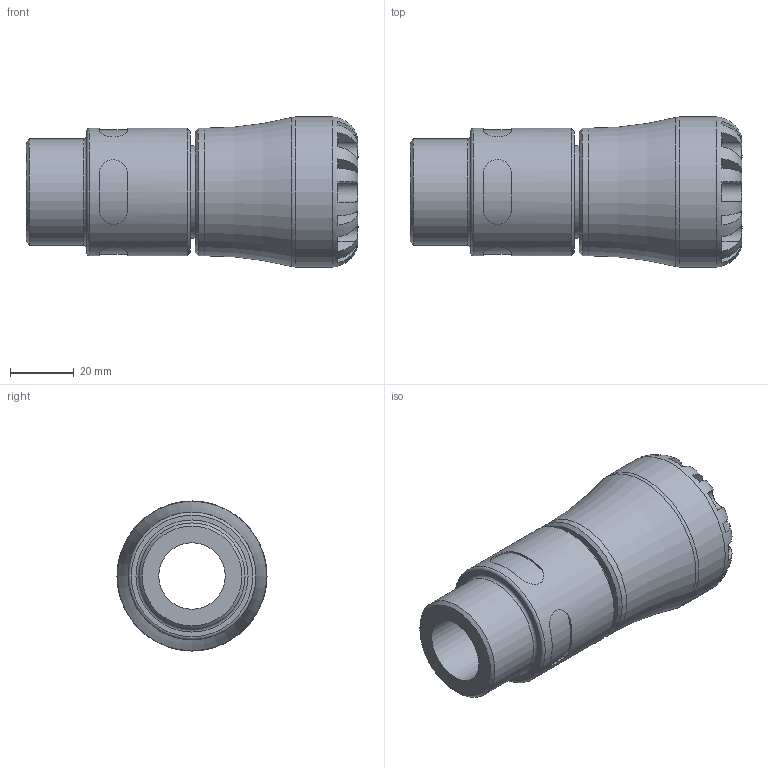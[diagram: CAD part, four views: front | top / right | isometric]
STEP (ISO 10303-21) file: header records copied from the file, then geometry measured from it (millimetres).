
FILE_DESCRIPTION(/* description */ ('PLASSON MALE ADAPTOR 25X1" SERIES 1'),/* implementation_level */ '2;1');
FILE_NAME(/* name */ 'C:\Dropbox\KIMPROJECTS-Inventor 2019\99-16-3568-Processing\S1\10N20\stp\10N200025010_10N2G0025010.stp',/* time_stamp */ '2024-03-12T13:19:16+01:00',/* author */ ('KIM'),/* organization */ (''),/* preprocessor_version */ 'ST-DEVELOPER v17.2',/* originating_system */ 'Autodesk Inventor 2019',/* authorisation */ '');
FILE_SCHEMA (('AUTOMOTIVE_DESIGN { 1 0 10303 214 3 1 1 }'));
Length unit declared in the file: millimetre
Products named in the file (1): 10N200025010_10N2G0025010
Bounding box: 104 x 47 x 47 mm (x, y, z)
Volume: 88982 mm3; surface area: 24626.5 mm2
Topology: 1 solids, 1 shells, 106 faces, 279 edges, 182 vertices
Faces by surface type: plane 62, cylinder 35, torus 5, cone 4
Full cylindrical faces by diameter (mm): 20.833 x1, 25 x1, 29 x1, 33.249 x1, 39.95 x2, 47 x1
Entity records: 4224 total; most frequent: CARTESIAN_POINT 1490, ORIENTED_EDGE 558, DIRECTION 552, EDGE_CURVE 279, AXIS2_PLACEMENT_3D 230, VERTEX_POINT 182, CIRCLE 123, EDGE_LOOP 115
